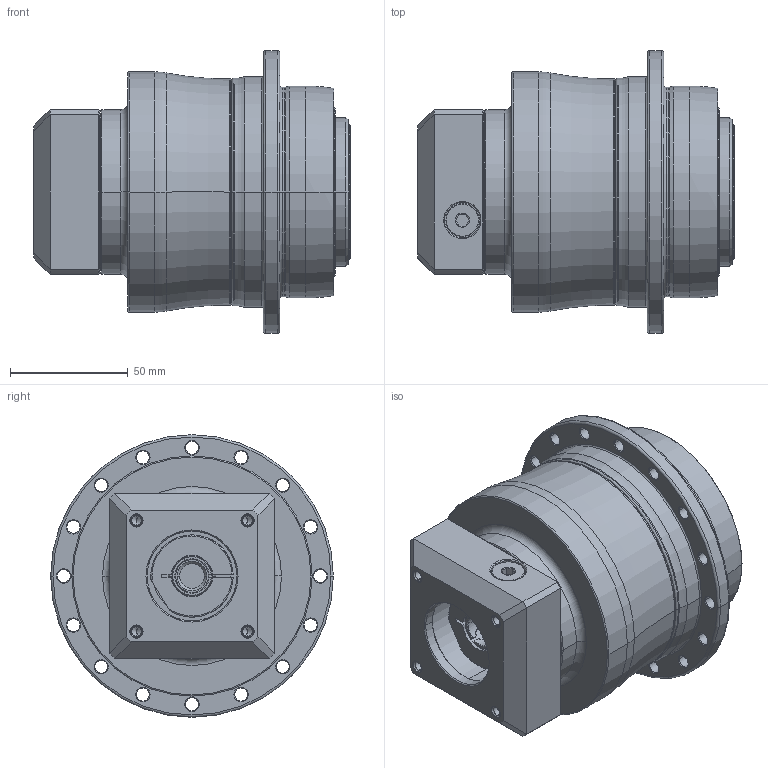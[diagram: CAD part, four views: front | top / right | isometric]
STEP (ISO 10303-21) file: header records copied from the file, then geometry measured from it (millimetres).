
FILE_DESCRIPTION((''),'2;1');
FILE_NAME('AP090_2ST_14-P0409300201_ASM','2018-10-16T',('d01226'),(''),'PRO/ENGINEER BY PARAMETRIC TECHNOLOGY CORPORATION, 2015240','PRO/ENGINEER BY PARAMETRIC TECHNOLOGY CORPORATION, 2015240','');
FILE_SCHEMA(('CONFIG_CONTROL_DESIGN'));
Length unit declared in the file: millimetre
Products named in the file (9): P0278301003; P0359301103; P1317310201; P0503300005; P0912202001; P1211300001; P0409300201; 21711410012; AP090_2ST_14-P0409300201_ASM
Assembly tree (8 placements, depth 2):
  AP090_2ST_14-P0409300201_ASM
    P0278301003
    P0359301103
    P1317310201
    P0503300005
    P0912202001
    P1211300001
    P0409300201
    21711410012
Bounding box: 134.5 x 120 x 120 mm (x, y, z)
Volume: 739821.6 mm3; surface area: 131008 mm2
Topology: 9 solids, 30 shells, 567 faces, 1307 edges, 804 vertices
Faces by surface type: cylinder 236, cone 146, plane 101, torus 70, bspline 14
Entity records: 20786 total; most frequent: CARTESIAN_POINT 7234, DIRECTION 3113, ORIENTED_EDGE 2512, AXIS2_PLACEMENT_3D 1333, EDGE_CURVE 1299, VERTEX_POINT 804, CIRCLE 753, EDGE_LOOP 693
